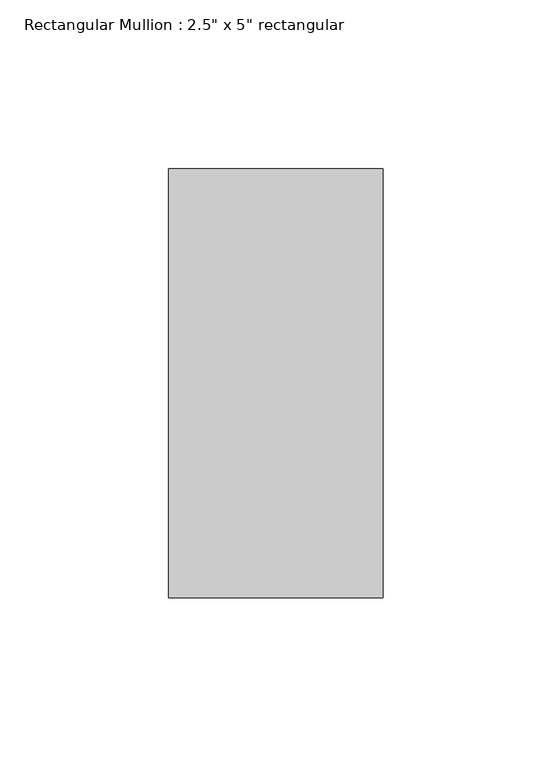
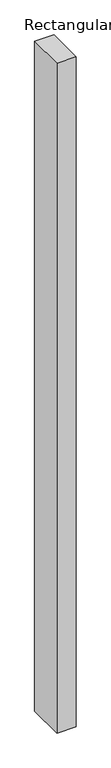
"""IFC4 building model written with IfcOpenShell, lengths in millimetres: member geometry."""

from ifc_helpers import new_model, si_unit, frame, origin, place, context, project, spatial, polyline, outline, extrude, source, transform, mapped, element, save


def member_9597caa3(model_context):
    return source(origin(), model_context, "Body", "SweptSolid", [
        extrude(outline(polyline([(31.75, 63.5), (31.75, -63.5), (-31.75, -63.5), (-31.75, 63.5), (31.75, 63.5)])), frame((0.0, 0.0, -2343.15), z_axis=(0.0, 0.0, 1.0), x_axis=(1.0, 0.0, 0.0)), (0.0, 0.0, 1.0), 2343.15),
    ])


if __name__ == "__main__":
    model = new_model("IFC4")
    model_context = context("Model", 3, world=origin())
    ifc_project = project(units=[si_unit("LENGTHUNIT", "METRE", prefix="MILLI")], contexts=[model_context])
    site = spatial("IfcSite", under=ifc_project)
    building = spatial("IfcBuilding", under=site)
    placement = place(None, origin())
    member_shape = member_9597caa3(model_context)
    element("IfcMember", 1, ObjectType="Rectangular Mullion : 2.5\" x 5\" rectangular", at=placement, inside=building, context=model_context, shape_type="MappedRepresentation", body=[
        mapped(member_shape, transform((0.0, 0.0, 0.0), x_axis=(1.0, 0.0, 0.0), y_axis=(0.0, 1.0, 0.0), z_axis=(0.0, 0.0, 1.0))),
    ])
    save(model, "model.ifc")
